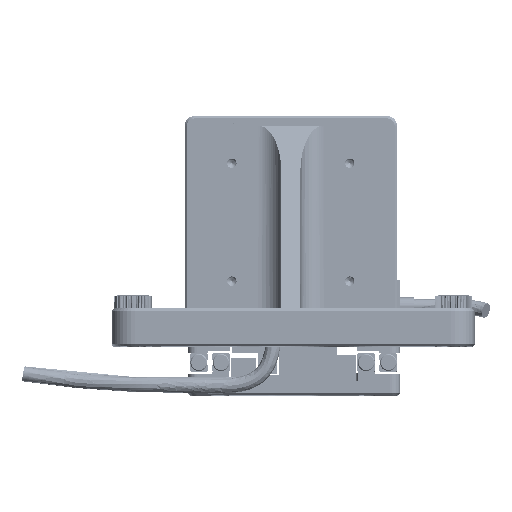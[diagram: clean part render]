
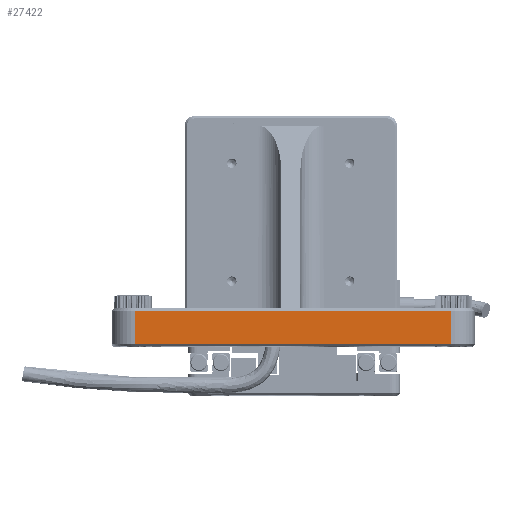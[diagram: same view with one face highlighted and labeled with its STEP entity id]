
A CAD part, top view. The second image highlights one B-rep face of the part: STEP entity #27422.
In plain terms, the highlighted planar face has unit normal (0, 0, 1) as drawn and (1, 0, 0) by its records, which use the part's own axes.
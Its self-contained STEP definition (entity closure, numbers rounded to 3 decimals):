
#719 = CARTESIAN_POINT ( 'NONE',  ( 57.72, 0.5, 39.74 ) ) ;
#1736 = ORIENTED_EDGE ( 'NONE', *, *, #8085, .T. ) ;
#2729 = CARTESIAN_POINT ( 'NONE',  ( 57.72, 7.5, 39.74 ) ) ;
#3945 = DIRECTION ( 'NONE',  ( -1., 0., 0. ) ) ;
#5066 = VERTEX_POINT ( 'NONE', #46723 ) ;
#8085 = EDGE_CURVE ( 'NONE', #11010, #29655, #15275, .T. ) ;
#8958 = AXIS2_PLACEMENT_3D ( 'NONE', #36404, #3945, #43898 ) ;
#11010 = VERTEX_POINT ( 'NONE', #40632 ) ;
#12597 = EDGE_CURVE ( 'NONE', #29655, #29308, #36853, .T. ) ;
#13796 = DIRECTION ( 'NONE',  ( 0., 0., 1. ) ) ;
#15275 = LINE ( 'NONE', #37057, #31812 ) ;
#15466 = DIRECTION ( 'NONE',  ( 0., 1., 0. ) ) ;
#16198 = VECTOR ( 'NONE', #13796, 1000. ) ;
#16785 = FACE_OUTER_BOUND ( 'NONE', #41052, .T. ) ;
#19226 = EDGE_CURVE ( 'NONE', #5066, #11010, #39584, .T. ) ;
#21339 = VECTOR ( 'NONE', #15466, 1000. ) ;
#23989 = ORIENTED_EDGE ( 'NONE', *, *, #43388, .T. ) ;
#27422 = ADVANCED_FACE ( 'NONE', ( #16785 ), #40098, .F. ) ;
#29308 = VERTEX_POINT ( 'NONE', #43114 ) ;
#29655 = VERTEX_POINT ( 'NONE', #719 ) ;
#30631 = VECTOR ( 'NONE', #40466, 1000. ) ;
#31812 = VECTOR ( 'NONE', #44556, 1000. ) ;
#36404 = CARTESIAN_POINT ( 'NONE',  ( 57.72, 8., -32.26 ) ) ;
#36523 = CARTESIAN_POINT ( 'NONE',  ( 57.72, 8., -27.26 ) ) ;
#36853 = LINE ( 'NONE', #37262, #30631 ) ;
#37057 = CARTESIAN_POINT ( 'NONE',  ( 57.72, 8., 39.74 ) ) ;
#37262 = CARTESIAN_POINT ( 'NONE',  ( 57.72, 0.5, -32.26 ) ) ;
#37539 = ORIENTED_EDGE ( 'NONE', *, *, #19226, .T. ) ;
#39584 = LINE ( 'NONE', #2729, #16198 ) ;
#40098 = PLANE ( 'NONE',  #8958 ) ;
#40466 = DIRECTION ( 'NONE',  ( 0., 0., -1. ) ) ;
#40632 = CARTESIAN_POINT ( 'NONE',  ( 57.72, 7.5, 39.74 ) ) ;
#41052 = EDGE_LOOP ( 'NONE', ( #1736, #46745, #23989, #37539 ) ) ;
#43114 = CARTESIAN_POINT ( 'NONE',  ( 57.72, 0.5, -27.26 ) ) ;
#43388 = EDGE_CURVE ( 'NONE', #29308, #5066, #43565, .T. ) ;
#43565 = LINE ( 'NONE', #36523, #21339 ) ;
#43898 = DIRECTION ( 'NONE',  ( 0., 0., 1. ) ) ;
#44556 = DIRECTION ( 'NONE',  ( 0., -1., 0. ) ) ;
#46723 = CARTESIAN_POINT ( 'NONE',  ( 57.72, 7.5, -27.26 ) ) ;
#46745 = ORIENTED_EDGE ( 'NONE', *, *, #12597, .T. ) ;
